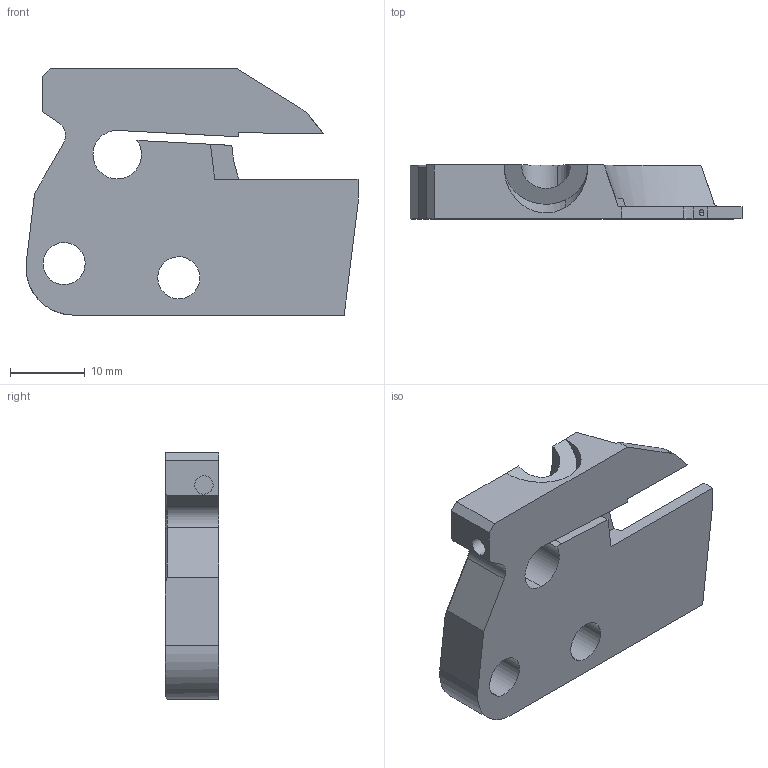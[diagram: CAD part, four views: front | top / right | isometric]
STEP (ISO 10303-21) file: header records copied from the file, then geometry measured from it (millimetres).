
FILE_DESCRIPTION(('CATIA V5 STEP','CAx-IF Rec.Pracs.--- Model Styling and Organization---1.2---2011-12-15'),'2;1');
FILE_NAME('\\nas01\drv1\utils\eitdev\rte\eit\transmagicconvert\db\out\2393781 D1.stp','2014-10-01T07:09:44+00:00',('none'),('none'),'CATIA Version 5 Release 21 SP 5 (IN-10)','CATIA V5 STEP AP214','none');
FILE_SCHEMA(('AUTOMOTIVE_DESIGN { 1 0 10303 214 1 1 1 1 }'));
Length unit declared in the file: millimetre
Products named in the file (1): DGPAD 2L-D32-JHP
Bounding box: 44.49 x 7.2 x 33 mm (x, y, z)
Volume: 6451.7 mm3; surface area: 3771 mm2
Topology: 1 solids, 1 shells, 53 faces, 147 edges, 98 vertices
Faces by surface type: plane 31, cylinder 16, extrusion 4, cone 2
Entity records: 1823 total; most frequent: CARTESIAN_POINT 476, ORIENTED_EDGE 294, DIRECTION 227, EDGE_CURVE 147, VECTOR 99, VERTEX_POINT 98, LINE 95, AXIS2_PLACEMENT_3D 80
